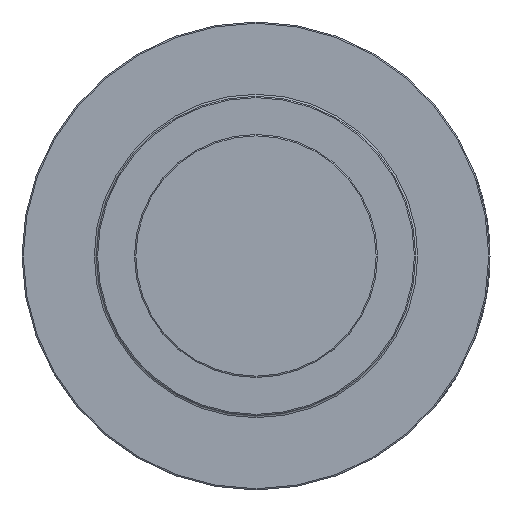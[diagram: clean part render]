
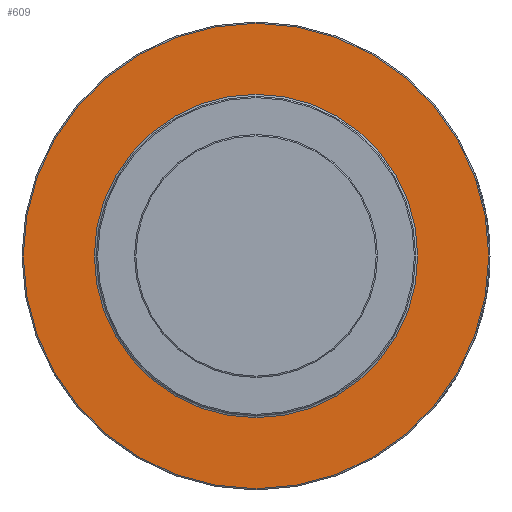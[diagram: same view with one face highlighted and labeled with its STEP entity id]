
A CAD part, left-side view. The second image highlights one B-rep face of the part: STEP entity #609.
In plain terms, the highlighted planar face has unit normal (-1, 0, 0).
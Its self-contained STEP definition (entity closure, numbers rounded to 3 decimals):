
#609 = ADVANCED_FACE( '', ( #1276, #1277 ), #1278, .F. );
#1276 = FACE_BOUND( '', #3213, .T. );
#1277 = FACE_OUTER_BOUND( '', #3214, .T. );
#1278 = PLANE( '', #3215 );
#3213 = EDGE_LOOP( '', ( #4972 ) );
#3214 = EDGE_LOOP( '', ( #4973 ) );
#3215 = AXIS2_PLACEMENT_3D( '', #4974, #4975, #4976 );
#4972 = ORIENTED_EDGE( '', *, *, #5491, .F. );
#4973 = ORIENTED_EDGE( '', *, *, #5735, .T. );
#4974 = CARTESIAN_POINT( '', ( 52.261, 0., 64.167 ) );
#4975 = DIRECTION( '', ( 1., 0., 0. ) );
#4976 = DIRECTION( '', ( 0., 0., -1. ) );
#5491 = EDGE_CURVE( '', #6448, #6448, #6449, .T. );
#5735 = EDGE_CURVE( '', #6774, #6774, #6775, .T. );
#6448 = VERTEX_POINT( '', #8381 );
#6449 = CIRCLE( '', #8382, 64.167 );
#6774 = VERTEX_POINT( '', #9253 );
#6775 = CIRCLE( '', #9254, 92.361 );
#8381 = CARTESIAN_POINT( '', ( 52.261, 0., 64.167 ) );
#8382 = AXIS2_PLACEMENT_3D( '', #9647, #9648, #9649 );
#9253 = CARTESIAN_POINT( '', ( 52.261, 0., 92.361 ) );
#9254 = AXIS2_PLACEMENT_3D( '', #9665, #9666, #9667 );
#9647 = CARTESIAN_POINT( '', ( 52.261, 0., 0. ) );
#9648 = DIRECTION( '', ( -1., 0., 0. ) );
#9649 = DIRECTION( '', ( 0., 0., 1. ) );
#9665 = CARTESIAN_POINT( '', ( 52.261, 0., 0. ) );
#9666 = DIRECTION( '', ( -1., 0., 0. ) );
#9667 = DIRECTION( '', ( 0., 0., 1. ) );
